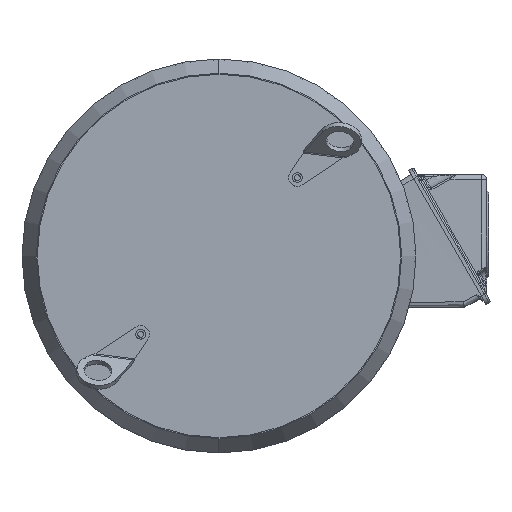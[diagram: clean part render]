
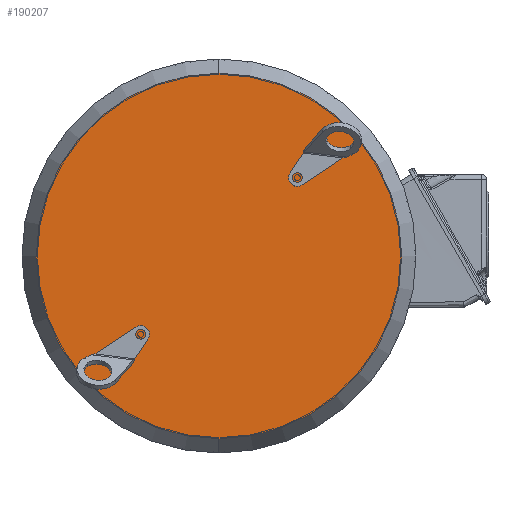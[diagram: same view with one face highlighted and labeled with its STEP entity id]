
A CAD part, top view. The second image highlights one B-rep face of the part: STEP entity #190207.
In plain terms, the highlighted planar face has unit normal (0, 0, 1).
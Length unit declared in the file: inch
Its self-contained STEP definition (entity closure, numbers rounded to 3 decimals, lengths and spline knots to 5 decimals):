
#190076=CARTESIAN_POINT('',(0.,0.,0.));
#190077=DIRECTION('',(0.,0.,-1.));
#190078=DIRECTION('',(0.,1.,0.));
#190079=AXIS2_PLACEMENT_3D('',#190076,#190077,#190078);
#190081=CARTESIAN_POINT('',(0.,0.,0.));
#190082=DIRECTION('',(0.,0.,1.));
#190083=DIRECTION('',(0.,1.,0.));
#190084=AXIS2_PLACEMENT_3D('',#190081,#190082,#190083);
#190092=CARTESIAN_POINT('',(0.,6.49193,0.));
#190093=VERTEX_POINT('',#190092);
#190100=CARTESIAN_POINT('',(0.,-6.49193,0.));
#190101=VERTEX_POINT('',#190100);
#190198=CARTESIAN_POINT('',(0.,0.,0.));
#190199=DIRECTION('',(0.,0.,1.));
#190200=DIRECTION('',(0.,1.,0.));
#190201=AXIS2_PLACEMENT_3D('',#190198,#190199,#190200);
#190202=PLANE('',#190201);
#190203=ORIENTED_EDGE('',*,*,#190180,.T.);
#190204=ORIENTED_EDGE('',*,*,#190191,.F.);
#190205=EDGE_LOOP('',(#190203,#190204));
#190206=FACE_OUTER_BOUND('',#190205,.F.);
#190207=ADVANCED_FACE('',(#190206),#190202,.T.);
#190080=CIRCLE('',#190079,6.49193);
#190085=CIRCLE('',#190084,6.49193);
#190180=EDGE_CURVE('',#190093,#190101,#190080,.T.);
#190191=EDGE_CURVE('',#190093,#190101,#190085,.T.);
